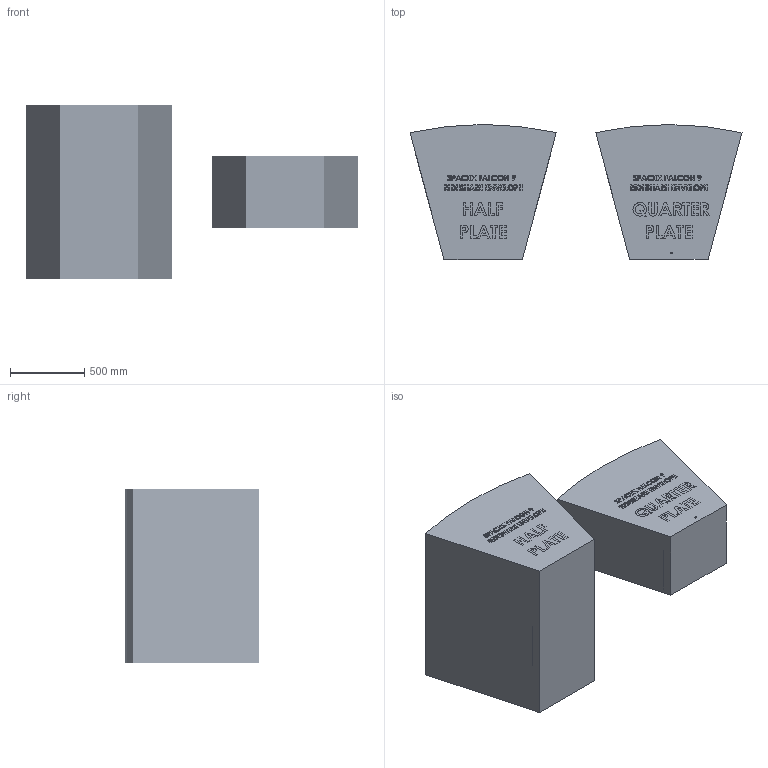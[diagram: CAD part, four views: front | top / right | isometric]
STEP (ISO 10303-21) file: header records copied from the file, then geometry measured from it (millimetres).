
FILE_DESCRIPTION (( 'STEP AP214' ), '1' );
FILE_NAME ('MP42H_(AOS-P)_simplificationV3.STEP', '2026-09-21T07:26:07', ( '' ), ( '' ), 'SwSTEP 2.0', 'SolidWorks 2024', '' );
FILE_SCHEMA (( 'AUTOMOTIVE_DESIGN' ));
Length unit declared in the file: millimetre
Products named in the file (45): 10039830_Thermal FEA; 10039814_Simplified; 10039719_Stowed - MGSE; 10039792_RW MVI; 10039848_No Keep out area; 10039756_Stowed - Export; 10039973_Thermal FEA; 10039807; 10039859; 10039831_Simplified; 10039797_Simplified; 10039820_Simplified; 10039856; 10039862; MP42H_(AOS-P)_simplificationV3; 10039763_RW MVI; 10039817; 10039821; 10039816_Simplified; 10039877; 10039818_Simplified; 10039799_Simplified; 10039794; 10039815; 10039795; 10039834_export; 10039813_Closed; 10039800_Closed; 10039760; 10039793; 10023387; 10039806_Simplified; 10039857; 10039861_Structural_FEA; 10039798; 10039791; 10039802; 10039832_Structural_FEA; 10039801; 10039819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
Assembly tree (52 placements, depth 6):
  MP42H_(AOS-P)_simplificationV3
    10039719_Stowed - MGSE  x2
      10039763_RW MVI
        10039792_RW MVI
        10039793
        10039794
        10039791
        10039795
      10039806_Simplified
        10039807
      10039818_Simplified
        10039819
      10039801
        10039802
      10039797_Simplified
        10039798
      10039816_Simplified
        10039817
      10039812_Simplified
        10039813_Closed
      10039799_Simplified
        10039800_Closed
      10039814_Simplified
        10039815
      10039831_Simplified
        10039832_Structural_FEA
      10039820_Simplified
        10039821
      10039756_Stowed - Export
        10039834_export  x2
          10039856
            10039876
            10039859
            10039857
        10039836_Structural_FEA
          10039861_Structural_FEA
          10023387
        10039760
        10039759
      10039848_No Keep out area
      10039822
      10039830_Thermal FEA
      10039973_Thermal FEA
    10039877
    10039862
Bounding box: 2238.65 x 908.59 x 1168.4 mm (x, y, z)
Volume: 1174748686.1 mm3; surface area: 16756698.3 mm2
Topology: 98 solids, 98 shells, 7197 faces, 19387 edges, 12618 vertices
Faces by surface type: plane 3614, cylinder 2494, cone 750, bspline 289, torus 34, sphere 16
Entity records: 122196 total; most frequent: CARTESIAN_POINT 37673, ORIENTED_EDGE 17894, DIRECTION 16461, EDGE_CURVE 8947, LINE 6057, VECTOR 6057, VERTEX_POINT 5864, AXIS2_PLACEMENT_3D 5202
